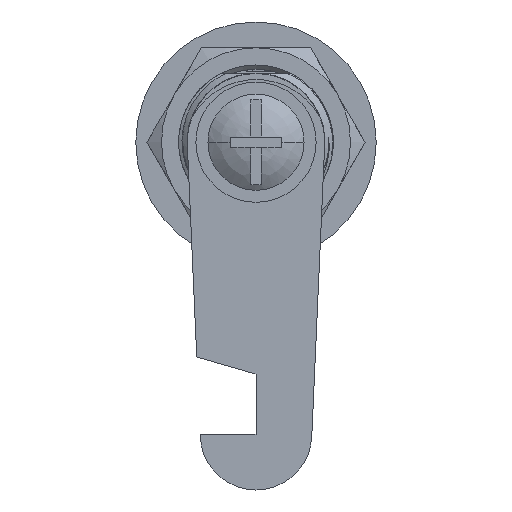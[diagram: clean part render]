
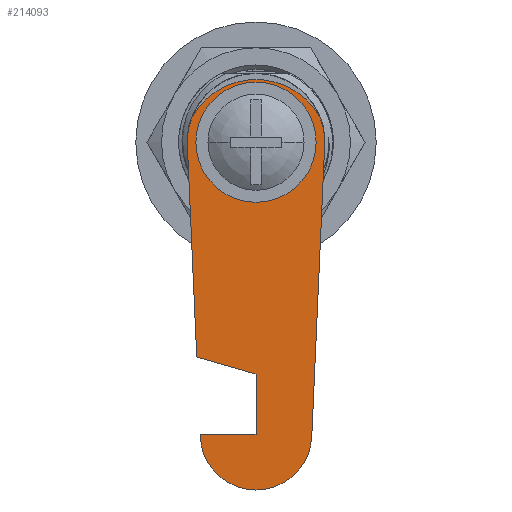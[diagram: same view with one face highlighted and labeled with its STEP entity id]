
A CAD part, front view. The second image highlights one B-rep face of the part: STEP entity #214093.
In plain terms, the highlighted planar face has unit normal (0, -1, 0) as drawn and (0, 0, -1) by its records, which use the part's own axes.
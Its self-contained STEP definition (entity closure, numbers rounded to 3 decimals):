
#213608=DIRECTION('',(1.,0.,0.));
#213609=VECTOR('',#213608,2.372);
#213610=CARTESIAN_POINT('',(-4.05,4.05,0.));
#213611=LINE('',#213610,#213609);
#213612=DIRECTION('',(0.707,0.707,0.));
#213613=VECTOR('',#213612,2.372);
#213614=CARTESIAN_POINT('',(-1.678,4.05,0.));
#213615=LINE('',#213614,#213613);
#213616=DIRECTION('',(0.707,-0.707,0.));
#213617=VECTOR('',#213616,2.372);
#213618=CARTESIAN_POINT('',(0.,5.728,0.));
#213619=LINE('',#213618,#213617);
#213620=DIRECTION('',(1.,0.,0.));
#213621=VECTOR('',#213620,2.372);
#213622=CARTESIAN_POINT('',(1.678,4.05,0.));
#213623=LINE('',#213622,#213621);
#213624=DIRECTION('',(0.,-1.,0.));
#213625=VECTOR('',#213624,2.372);
#213626=CARTESIAN_POINT('',(4.05,4.05,0.));
#213627=LINE('',#213626,#213625);
#213628=DIRECTION('',(0.707,-0.707,0.));
#213629=VECTOR('',#213628,2.372);
#213630=CARTESIAN_POINT('',(4.05,1.678,0.));
#213631=LINE('',#213630,#213629);
#213632=DIRECTION('',(-0.707,-0.707,0.));
#213633=VECTOR('',#213632,2.372);
#213634=CARTESIAN_POINT('',(5.728,0.,0.));
#213635=LINE('',#213634,#213633);
#213636=DIRECTION('',(0.,-1.,0.));
#213637=VECTOR('',#213636,2.372);
#213638=CARTESIAN_POINT('',(4.05,-1.678,0.));
#213639=LINE('',#213638,#213637);
#213640=DIRECTION('',(-1.,0.,0.));
#213641=VECTOR('',#213640,2.372);
#213642=CARTESIAN_POINT('',(4.05,-4.05,0.));
#213643=LINE('',#213642,#213641);
#213644=DIRECTION('',(-0.707,-0.707,0.));
#213645=VECTOR('',#213644,2.372);
#213646=CARTESIAN_POINT('',(1.678,-4.05,0.));
#213647=LINE('',#213646,#213645);
#213648=DIRECTION('',(-0.707,0.707,0.));
#213649=VECTOR('',#213648,2.372);
#213650=CARTESIAN_POINT('',(0.,-5.728,0.));
#213651=LINE('',#213650,#213649);
#213652=DIRECTION('',(-1.,0.,0.));
#213653=VECTOR('',#213652,2.372);
#213654=CARTESIAN_POINT('',(-1.678,-4.05,0.));
#213655=LINE('',#213654,#213653);
#213656=DIRECTION('',(0.,1.,0.));
#213657=VECTOR('',#213656,2.372);
#213658=CARTESIAN_POINT('',(-4.05,-4.05,0.));
#213659=LINE('',#213658,#213657);
#213660=DIRECTION('',(-0.707,0.707,0.));
#213661=VECTOR('',#213660,2.372);
#213662=CARTESIAN_POINT('',(-4.05,-1.678,0.));
#213663=LINE('',#213662,#213661);
#213664=DIRECTION('',(0.707,0.707,0.));
#213665=VECTOR('',#213664,2.372);
#213666=CARTESIAN_POINT('',(-5.728,0.,0.));
#213667=LINE('',#213666,#213665);
#213668=DIRECTION('',(0.,1.,0.));
#213669=VECTOR('',#213668,2.372);
#213670=CARTESIAN_POINT('',(-4.05,1.678,0.));
#213671=LINE('',#213670,#213669);
#213672=CARTESIAN_POINT('',(-1.2,0.,0.));
#213673=DIRECTION('',(0.,0.,1.));
#213674=DIRECTION('',(0.475,-0.88,0.));
#213675=AXIS2_PLACEMENT_3D('',#213672,#213673,#213674);
#213677=CARTESIAN_POINT('',(0.,0.,0.));
#213678=DIRECTION('',(0.,0.,1.));
#213679=DIRECTION('',(0.355,0.935,0.));
#213680=AXIS2_PLACEMENT_3D('',#213677,#213678,#213679);
#213682=DIRECTION('',(-0.999,-0.044,0.));
#213683=VECTOR('',#213682,33.967);
#213684=CARTESIAN_POINT('',(-0.353,7.992,0.));
#213685=LINE('',#213684,#213683);
#213686=CARTESIAN_POINT('',(-34.,0.,0.));
#213687=DIRECTION('',(0.,0.,1.));
#213688=DIRECTION('',(-0.044,0.999,0.));
#213689=AXIS2_PLACEMENT_3D('',#213686,#213687,#213688);
#213691=DIRECTION('',(0.999,-0.044,0.));
#213692=VECTOR('',#213691,0.287);
#213693=CARTESIAN_POINT('',(-34.287,-6.494,0.));
#213694=LINE('',#213693,#213692);
#213695=DIRECTION('',(0.,1.,0.));
#213696=VECTOR('',#213695,6.506);
#213697=CARTESIAN_POINT('',(-34.,-6.506,0.));
#213698=LINE('',#213697,#213696);
#213699=DIRECTION('',(1.,0.,0.));
#213700=VECTOR('',#213699,7.);
#213701=CARTESIAN_POINT('',(-34.,0.,0.));
#213702=LINE('',#213701,#213700);
#213703=DIRECTION('',(0.278,-0.961,0.));
#213704=VECTOR('',#213703,7.188);
#213705=CARTESIAN_POINT('',(-27.,0.,0.));
#213706=LINE('',#213705,#213704);
#213707=DIRECTION('',(0.999,-0.044,0.));
#213708=VECTOR('',#213707,24.671);
#213709=CARTESIAN_POINT('',(-25.,-6.904,0.));
#213710=LINE('',#213709,#213708);
#213711=CARTESIAN_POINT('',(0.,0.,0.));
#213712=DIRECTION('',(0.,0.,1.));
#213713=DIRECTION('',(-0.044,-0.999,0.));
#213714=AXIS2_PLACEMENT_3D('',#213711,#213712,#213713);
#213928=CARTESIAN_POINT('',(-0.353,7.992,0.));
#213929=CARTESIAN_POINT('',(-34.287,6.494,0.));
#213930=VERTEX_POINT('',#213928);
#213931=VERTEX_POINT('',#213929);
#213932=CARTESIAN_POINT('',(-34.287,-6.494,0.));
#213933=VERTEX_POINT('',#213932);
#213934=CARTESIAN_POINT('',(-34.,-6.506,0.));
#213935=VERTEX_POINT('',#213934);
#213936=CARTESIAN_POINT('',(-34.,0.,0.));
#213937=VERTEX_POINT('',#213936);
#213938=CARTESIAN_POINT('',(-27.,0.,0.));
#213939=VERTEX_POINT('',#213938);
#213940=CARTESIAN_POINT('',(-25.,-6.904,0.));
#213941=VERTEX_POINT('',#213940);
#213942=CARTESIAN_POINT('',(-0.353,-7.992,0.));
#213943=VERTEX_POINT('',#213942);
#213944=CARTESIAN_POINT('',(-4.05,4.05,0.));
#213945=CARTESIAN_POINT('',(-1.678,4.05,0.));
#213946=VERTEX_POINT('',#213944);
#213947=VERTEX_POINT('',#213945);
#213948=CARTESIAN_POINT('',(0.,5.728,0.));
#213949=VERTEX_POINT('',#213948);
#213950=CARTESIAN_POINT('',(1.678,4.05,0.));
#213951=VERTEX_POINT('',#213950);
#213952=CARTESIAN_POINT('',(4.05,4.05,0.));
#213953=VERTEX_POINT('',#213952);
#213954=CARTESIAN_POINT('',(4.05,1.678,0.));
#213955=VERTEX_POINT('',#213954);
#213956=CARTESIAN_POINT('',(5.728,0.,0.));
#213957=VERTEX_POINT('',#213956);
#213958=CARTESIAN_POINT('',(4.05,-1.678,0.));
#213959=VERTEX_POINT('',#213958);
#213960=CARTESIAN_POINT('',(4.05,-4.05,0.));
#213961=VERTEX_POINT('',#213960);
#213962=CARTESIAN_POINT('',(1.678,-4.05,0.));
#213963=VERTEX_POINT('',#213962);
#213964=CARTESIAN_POINT('',(0.,-5.728,0.));
#213965=VERTEX_POINT('',#213964);
#213966=CARTESIAN_POINT('',(-1.678,-4.05,0.));
#213967=VERTEX_POINT('',#213966);
#213968=CARTESIAN_POINT('',(-4.05,-4.05,0.));
#213969=VERTEX_POINT('',#213968);
#213970=CARTESIAN_POINT('',(-4.05,-1.678,0.));
#213971=VERTEX_POINT('',#213970);
#213972=CARTESIAN_POINT('',(-5.728,0.,0.));
#213973=VERTEX_POINT('',#213972);
#213974=CARTESIAN_POINT('',(-4.05,1.678,0.));
#213975=VERTEX_POINT('',#213974);
#214024=CARTESIAN_POINT('',(2.838,-7.48,0.));
#214025=CARTESIAN_POINT('',(2.838,7.48,0.));
#214026=VERTEX_POINT('',#214024);
#214027=VERTEX_POINT('',#214025);
#214032=CARTESIAN_POINT('',(0.,0.,0.));
#214033=DIRECTION('',(0.,0.,1.));
#214034=DIRECTION('',(1.,0.,0.));
#214035=AXIS2_PLACEMENT_3D('',#214032,#214033,#214034);
#214036=PLANE('',#214035);
#214038=ORIENTED_EDGE('',*,*,#214037,.T.);
#214040=ORIENTED_EDGE('',*,*,#214039,.T.);
#214042=ORIENTED_EDGE('',*,*,#214041,.T.);
#214044=ORIENTED_EDGE('',*,*,#214043,.T.);
#214046=ORIENTED_EDGE('',*,*,#214045,.T.);
#214048=ORIENTED_EDGE('',*,*,#214047,.T.);
#214050=ORIENTED_EDGE('',*,*,#214049,.T.);
#214052=ORIENTED_EDGE('',*,*,#214051,.T.);
#214054=ORIENTED_EDGE('',*,*,#214053,.T.);
#214056=ORIENTED_EDGE('',*,*,#214055,.T.);
#214057=EDGE_LOOP('',(#214038,#214040,#214042,#214044,#214046,#214048,#214050,
#214052,#214054,#214056));
#214058=FACE_OUTER_BOUND('',#214057,.F.);
#214060=ORIENTED_EDGE('',*,*,#214059,.T.);
#214062=ORIENTED_EDGE('',*,*,#214061,.T.);
#214064=ORIENTED_EDGE('',*,*,#214063,.T.);
#214066=ORIENTED_EDGE('',*,*,#214065,.T.);
#214068=ORIENTED_EDGE('',*,*,#214067,.T.);
#214070=ORIENTED_EDGE('',*,*,#214069,.T.);
#214072=ORIENTED_EDGE('',*,*,#214071,.T.);
#214074=ORIENTED_EDGE('',*,*,#214073,.T.);
#214076=ORIENTED_EDGE('',*,*,#214075,.T.);
#214078=ORIENTED_EDGE('',*,*,#214077,.T.);
#214080=ORIENTED_EDGE('',*,*,#214079,.T.);
#214082=ORIENTED_EDGE('',*,*,#214081,.T.);
#214084=ORIENTED_EDGE('',*,*,#214083,.T.);
#214086=ORIENTED_EDGE('',*,*,#214085,.T.);
#214088=ORIENTED_EDGE('',*,*,#214087,.T.);
#214090=ORIENTED_EDGE('',*,*,#214089,.T.);
#214091=EDGE_LOOP('',(#214060,#214062,#214064,#214066,#214068,#214070,#214072,
#214074,#214076,#214078,#214080,#214082,#214084,#214086,#214088,#214090));
#214092=FACE_BOUND('',#214091,.F.);
#214093=ADVANCED_FACE('',(#214058,#214092),#214036,.F.);
#213676=CIRCLE('',#213675,8.5);
#213681=CIRCLE('',#213680,8.);
#213690=CIRCLE('',#213689,6.5);
#213715=CIRCLE('',#213714,8.);
#214037=EDGE_CURVE('',#214026,#214027,#213676,.T.);
#214039=EDGE_CURVE('',#214027,#213930,#213681,.T.);
#214041=EDGE_CURVE('',#213930,#213931,#213685,.T.);
#214043=EDGE_CURVE('',#213931,#213933,#213690,.T.);
#214045=EDGE_CURVE('',#213933,#213935,#213694,.T.);
#214047=EDGE_CURVE('',#213935,#213937,#213698,.T.);
#214049=EDGE_CURVE('',#213937,#213939,#213702,.T.);
#214051=EDGE_CURVE('',#213939,#213941,#213706,.T.);
#214053=EDGE_CURVE('',#213941,#213943,#213710,.T.);
#214055=EDGE_CURVE('',#213943,#214026,#213715,.T.);
#214059=EDGE_CURVE('',#213946,#213947,#213611,.T.);
#214061=EDGE_CURVE('',#213947,#213949,#213615,.T.);
#214063=EDGE_CURVE('',#213949,#213951,#213619,.T.);
#214065=EDGE_CURVE('',#213951,#213953,#213623,.T.);
#214067=EDGE_CURVE('',#213953,#213955,#213627,.T.);
#214069=EDGE_CURVE('',#213955,#213957,#213631,.T.);
#214071=EDGE_CURVE('',#213957,#213959,#213635,.T.);
#214073=EDGE_CURVE('',#213959,#213961,#213639,.T.);
#214075=EDGE_CURVE('',#213961,#213963,#213643,.T.);
#214077=EDGE_CURVE('',#213963,#213965,#213647,.T.);
#214079=EDGE_CURVE('',#213965,#213967,#213651,.T.);
#214081=EDGE_CURVE('',#213967,#213969,#213655,.T.);
#214083=EDGE_CURVE('',#213969,#213971,#213659,.T.);
#214085=EDGE_CURVE('',#213971,#213973,#213663,.T.);
#214087=EDGE_CURVE('',#213973,#213975,#213667,.T.);
#214089=EDGE_CURVE('',#213975,#213946,#213671,.T.);
